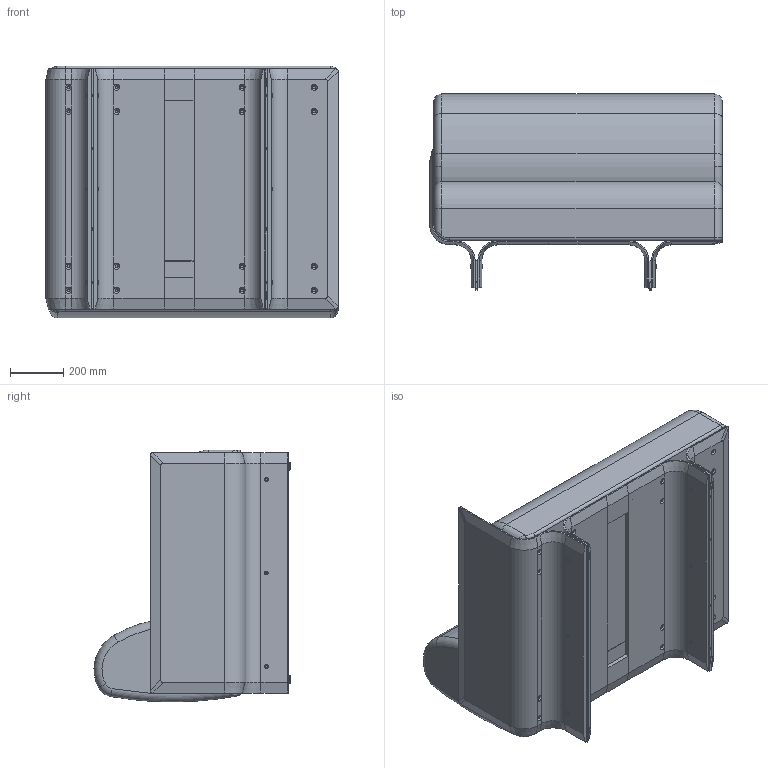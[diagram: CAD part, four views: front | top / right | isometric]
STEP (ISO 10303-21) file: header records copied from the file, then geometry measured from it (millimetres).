
FILE_DESCRIPTION (( 'STEP AP214' ), '1' );
FILE_NAME ('1080 SX.STEP', '2024-06-05T12:44:30', ( '' ), ( '' ), 'SwSTEP 2.0', 'SolidWorks 2023', '' );
FILE_SCHEMA (( 'AUTOMOTIVE_DESIGN' ));
Length unit declared in the file: millimetre
Products named in the file (12): BASE_FASCIA_COLLEGAMENTO_x_MODULARE_1080 TERMINALE; STAMI_SOFA_PLUS_BASE_ASSIEME_1080 TERMINALE; SCHIENALE_GOMMA_1080 SX; 20PT8X30N scivolo IPEA; boccola_borchia M6; BASE_COMPONENTI_SEMIPONTE TERMINALE; SEDILE_1080 LATERALE solo GOMMA; BASE_COMPONENTI_SEMIPONTE CENTRALE; 1080 SX; PIEDINO_L900; BASE_DISTANZIALE_1cm; BASE_TERMINALE_SOFA
Assembly tree (29 placements, depth 3):
  1080 SX
    STAMI_SOFA_PLUS_BASE_ASSIEME_1080 TERMINALE
      BASE_TERMINALE_SOFA
      BASE_DISTANZIALE_1cm  x2
      PIEDINO_L900  x2
      20PT8X30N scivolo IPEA  x4
      BASE_COMPONENTI_SEMIPONTE CENTRALE  x2
      BASE_FASCIA_COLLEGAMENTO_x_MODULARE_1080 TERMINALE  x2
      BASE_COMPONENTI_SEMIPONTE TERMINALE
      boccola_borchia M6  x12
    SEDILE_1080 LATERALE solo GOMMA
    SCHIENALE_GOMMA_1080 SX
Bounding box: 1095 x 733.94 x 943.25 mm (x, y, z)
Volume: 345665655.8 mm3; surface area: 8026075.6 mm2
Topology: 28 solids, 28 shells, 761 faces, 1811 edges, 1086 vertices
Faces by surface type: cylinder 327, plane 266, cone 90, torus 56, sphere 16, bspline 6
Entity records: 11863 total; most frequent: CARTESIAN_POINT 2740, DIRECTION 1994, ORIENTED_EDGE 1712, EDGE_CURVE 856, AXIS2_PLACEMENT_3D 789, VERTEX_POINT 524, EDGE_LOOP 426, VECTOR 416
